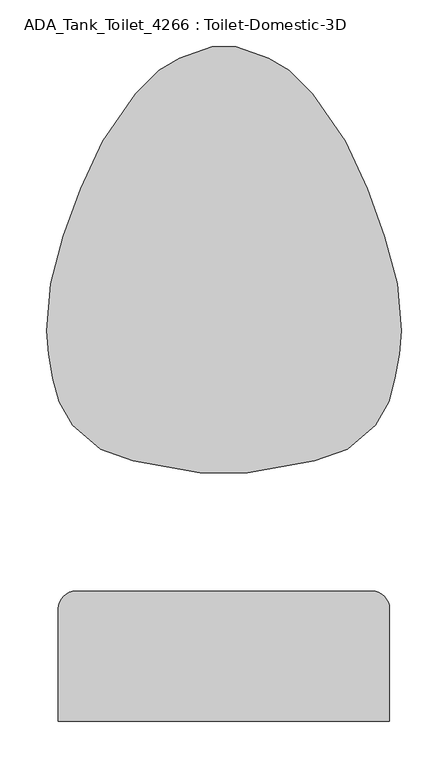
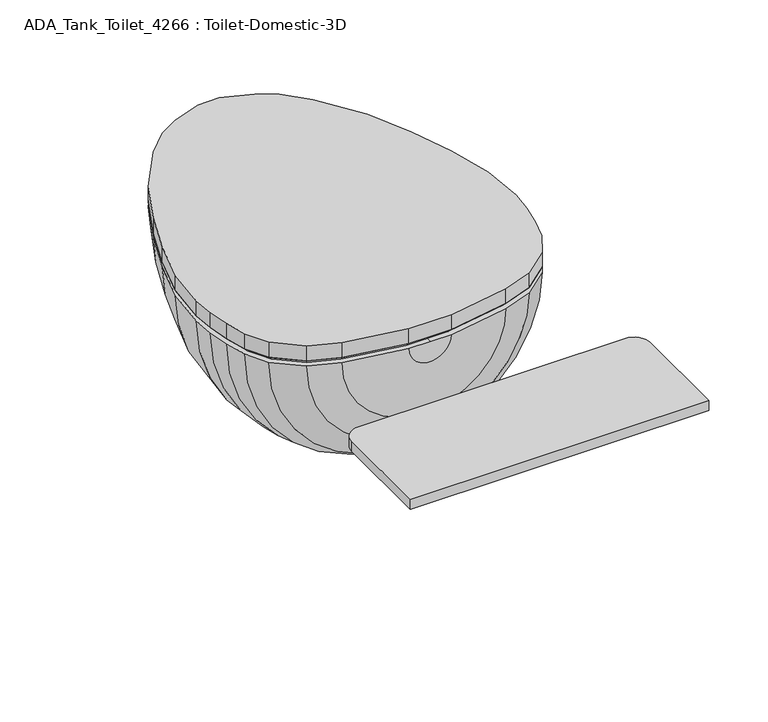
"""IFC4 building model written with IfcOpenShell, lengths in millimetres: flow terminal geometry, ADA_Tank_Toilet_4266 : Toilet-Domestic-3D."""

import ifcopenshell
import ifcopenshell.guid

model = None  # the IFC model being written
_history = None  # IfcOwnerHistory: only IFC2X3 demands one
_inside = {}  # id of a spatial element -> (the spatial element, [elements in it])
_under = {}  # id of a project, library or spatial element -> (it, [spatial elements below it])
_declared = {}  # id of a project -> (the project, [libraries it declares])
_typed = {}  # id of a type object -> (the type object, [elements of that type])
_made_of = {}  # id of a material, layer set ... -> (it, [elements and type objects made of it])


def new_model(schema):
    """Start an empty IFC model of exactly this schema.

    Asked for "IFC4X3", IfcOpenShell would pick the latest addendum, in which some entities
    have other attributes; the version numbers below select the first issue.
    IFC2X3 requires an IfcOwnerHistory on every rooted entity: one is made here for all.
    """
    global model, _history
    if schema == "IFC4X3":
        model = ifcopenshell.file(schema_version=(4, 3, 0, 0))
    else:
        model = ifcopenshell.file(schema=schema)
    _inside.clear()
    _under.clear()
    _declared.clear()
    _typed.clear()
    _made_of.clear()
    _history = None
    if model.schema == "IFC2X3":
        org = make("IfcOrganization", Name="unknown")
        user = make(
            "IfcPersonAndOrganization",
            ThePerson=make("IfcPerson", FamilyName="unknown"),
            TheOrganization=org,
        )
        app = make(
            "IfcApplication",
            ApplicationDeveloper=org,
            Version="unknown",
            ApplicationFullName="unknown",
            ApplicationIdentifier="unknown",
        )
        _history = make(
            "IfcOwnerHistory",
            OwningUser=user,
            OwningApplication=app,
            ChangeAction="ADDED",
            CreationDate=0,
        )
    return model


def make(cls, **values):
    """One entity of the class cls with the attributes given. An attribute that is None is left unset."""
    return model.create_entity(
        cls, **{name: value for name, value in values.items() if value is not None}
    )


def rooted(cls, **values):
    """An entity with a GlobalId (a new one), such as an element, a storey or a relation."""
    return make(cls, GlobalId=ifcopenshell.guid.new(), OwnerHistory=_history, **values)


def si_unit(unit_type, name, prefix=None):
    """IfcSIUnit, for example si_unit("LENGTHUNIT", "METRE", prefix="MILLI")."""
    return make("IfcSIUnit", UnitType=unit_type, Prefix=prefix, Name=name)


def assignment(units):
    """IfcUnitAssignment: the units of a project."""
    return None if units is None else make("IfcUnitAssignment", Units=units)


def point(xyz):
    """IfcCartesianPoint."""
    return None if xyz is None else make("IfcCartesianPoint", Coordinates=xyz)


def direction(xyz):
    """IfcDirection."""
    return None if xyz is None else make("IfcDirection", DirectionRatios=xyz)


def frame(location, z_axis=None, x_axis=None):
    """IfcAxis2Placement3D, a coordinate frame: its origin and axes. An axis left out is left unset."""
    return make(
        "IfcAxis2Placement3D",
        Location=point(location),
        Axis=direction(z_axis),
        RefDirection=direction(x_axis),
    )


def frame_2d(location, x_axis=None):
    """IfcAxis2Placement2D, a coordinate frame in the plane: its origin and x axis."""
    return make(
        "IfcAxis2Placement2D", Location=point(location), RefDirection=direction(x_axis)
    )


def origin():
    """The frame at (0, 0, 0) with its axes left unset."""
    return frame((0.0, 0.0, 0.0))


def place(relative_to, where):
    """IfcLocalPlacement: puts the frame where relative to a parent placement (None: the world)."""
    return make(
        "IfcLocalPlacement", PlacementRelTo=relative_to, RelativePlacement=where
    )


def context(
    kind, dimensions, precision=None, world=None, true_north=None, identifier=None
):
    """IfcGeometricRepresentationContext, for example the 3D "Model" context."""
    return make(
        "IfcGeometricRepresentationContext",
        ContextIdentifier=identifier,
        ContextType=kind,
        CoordinateSpaceDimension=dimensions,
        Precision=precision,
        WorldCoordinateSystem=world,
        TrueNorth=true_north,
    )


def project(units=None, contexts=None):
    """IfcProject with its units and contexts."""
    return rooted(
        "IfcProject",
        Name="project",
        RepresentationContexts=contexts,
        UnitsInContext=assignment(units),
    )


def spatial(cls, under=None, at=None, **own):
    """A site, building, storey or space (cls), placed at a placement, below another one or the project."""
    s = rooted(cls, ObjectPlacement=at, **own)
    if under is not None:
        _under.setdefault(under.id(), (under, []))[1].append(s)
    return s


def polyline(points):
    """IfcPolyline through the points."""
    return make("IfcPolyline", Points=[point(p) for p in points])


def circle_curve(where, radius):
    """IfcCircle in the frame where."""
    return make("IfcCircle", Position=where, Radius=radius)


def trimmed(basis, trim1, trim2, sense, master):
    """IfcTrimmedCurve: the piece of a basis curve between two trims."""
    return make(
        "IfcTrimmedCurve",
        BasisCurve=basis,
        Trim1=trim1,
        Trim2=trim2,
        SenseAgreement=sense,
        MasterRepresentation=master,
    )


def segment(curve, same_sense, transition):
    """IfcCompositeCurveSegment."""
    return make(
        "IfcCompositeCurveSegment",
        Transition=transition,
        SameSense=same_sense,
        ParentCurve=curve,
    )


def composite_curve(segments, self_intersect=None):
    """IfcCompositeCurve: segments joined end to end."""
    return make("IfcCompositeCurve", Segments=segments, SelfIntersect=self_intersect)


def outline(outer, holes=None, kind="AREA"):
    """IfcArbitraryClosedProfileDef: a profile drawn as a closed curve; with holes, ...WithVoids."""
    if holes is None:
        return make("IfcArbitraryClosedProfileDef", ProfileType=kind, OuterCurve=outer)
    return make(
        "IfcArbitraryProfileDefWithVoids",
        ProfileType=kind,
        OuterCurve=outer,
        InnerCurves=holes,
    )


def extrude(swept, where, along, depth):
    """IfcExtrudedAreaSolid: the profile swept, set in the frame where, extruded along a direction by depth."""
    return make(
        "IfcExtrudedAreaSolid",
        SweptArea=swept,
        Position=where,
        ExtrudedDirection=direction(along),
        Depth=depth,
    )


def faces_of(points, faces, orient=None, outer=None):
    """IfcFace entities. A face is a list of loops; a loop is a list of indices into points, from 0.

    orient and outer hold one flag for each loop. By default every Orientation is true, the
    first loop of a face is its IfcFaceOuterBound and the others are IfcFaceBound.
    """
    made = []
    for i, loops in enumerate(faces):
        bounds = []
        for j, loop in enumerate(loops):
            is_outer = j == 0 if outer is None else outer[i][j]
            bounds.append(
                make(
                    "IfcFaceOuterBound" if is_outer else "IfcFaceBound",
                    Bound=make("IfcPolyLoop", Polygon=[points[k] for k in loop]),
                    Orientation=True if orient is None else orient[i][j],
                )
            )
        made.append(make("IfcFace", Bounds=bounds))
    return made


def faceted_brep(points, faces, orient=None, outer=None, voids=None):
    """IfcFacetedBrep: a solid bounded by flat faces; with voids (closed shells), ...WithVoids."""
    shared = [point(p) for p in points]
    hull = make("IfcClosedShell", CfsFaces=faces_of(shared, faces, orient, outer))
    if voids is None:
        return make("IfcFacetedBrep", Outer=hull)
    return make(
        "IfcFacetedBrepWithVoids",
        Outer=hull,
        Voids=[
            make(cls, CfsFaces=faces_of(shared, fs, o, b)) for cls, fs, o, b in voids
        ],
    )


def shape(context_of_items, identifier, shape_type, items):
    """IfcShapeRepresentation: the items that make up one representation, for example the "Body"."""
    return make(
        "IfcShapeRepresentation",
        ContextOfItems=context_of_items,
        RepresentationIdentifier=identifier,
        RepresentationType=shape_type,
        Items=items,
    )


def source(mapping_origin, context_of_items, identifier, shape_type, items):
    """IfcRepresentationMap: a shape defined once, which mapped items show again and again."""
    return make(
        "IfcRepresentationMap",
        MappingOrigin=mapping_origin,
        MappedRepresentation=shape(context_of_items, identifier, shape_type, items),
    )


def transform(
    local_origin,
    x_axis=None,
    y_axis=None,
    z_axis=None,
    scale=None,
    scale2=None,
    scale3=None,
    uniform=True,
):
    """IfcCartesianTransformationOperator3D, or its non-uniform kind. x_axis, y_axis, z_axis: its Axis1, 2, 3."""
    if uniform:
        return make(
            "IfcCartesianTransformationOperator3D",
            Axis1=direction(x_axis),
            Axis2=direction(y_axis),
            LocalOrigin=point(local_origin),
            Scale=scale,
            Axis3=direction(z_axis),
        )
    return make(
        "IfcCartesianTransformationOperator3DnonUniform",
        Axis1=direction(x_axis),
        Axis2=direction(y_axis),
        LocalOrigin=point(local_origin),
        Scale=scale,
        Axis3=direction(z_axis),
        Scale2=scale2,
        Scale3=scale3,
    )


def mapped(mapping_source, mapping_target):
    """IfcMappedItem: shows the shape of a source again, moved by a transform."""
    return make(
        "IfcMappedItem", MappingSource=mapping_source, MappingTarget=mapping_target
    )


def made_of(thing, what):
    """Note that an element or type object is made of a material, layer set ...; save() writes the relation."""
    if what is not None:
        _made_of.setdefault(what.id(), (what, []))[1].append(thing)
    return thing


def element(
    cls,
    number,
    at=None,
    inside=None,
    cuts=None,
    type_object=None,
    material=None,
    context=None,
    identifier="Body",
    shape_type=None,
    held_by="IfcProductDefinitionShape",
    body=None,
    shapes=None,
    **own,
):
    """One element of the class cls, such as IfcWall. Its Tag is "e" and its number.

    at: its placement. inside: the storey or other place that contains it. cuts: it is an
    opening in that element (IfcRelVoidsElement). A single representation is given by context,
    identifier, shape_type and body (its items); several are given by shapes. held_by: the class
    of the entity that holds the representations. save() writes the other relations.
    """
    e = rooted(cls, Tag="e%d" % number, ObjectPlacement=at, **own)
    if body is not None:
        shapes = [shape(context, identifier, shape_type, body)]
    if shapes is not None:
        e.Representation = make(held_by, Representations=shapes)
    if inside is not None:
        _inside.setdefault(inside.id(), (inside, []))[1].append(e)
    if cuts is not None:
        rooted(
            "IfcRelVoidsElement", RelatingBuildingElement=cuts, RelatedOpeningElement=e
        )
    if type_object is not None:
        _typed.setdefault(type_object.id(), (type_object, []))[1].append(e)
    return made_of(e, material)


def aggregate(whole, parts):
    """IfcRelAggregates: a whole, such as a stair, and the parts it consists of."""
    return rooted("IfcRelAggregates", RelatingObject=whole, RelatedObjects=parts)


def save(model, path):
    """Write the relations noted so far, then the file.

    IfcRelAggregates (storeys below a building ...), IfcRelContainedInSpatialStructure (elements
    in a storey), IfcRelDefinesByType, IfcRelAssociatesMaterial and IfcRelDeclares: one each for
    every whole, place, type object, material and project.
    """
    for whole, parts in _under.values():
        aggregate(whole, parts)
    for where, things in _inside.values():
        rooted(
            "IfcRelContainedInSpatialStructure",
            RelatedElements=things,
            RelatingStructure=where,
        )
    for kind, things in _typed.values():
        rooted("IfcRelDefinesByType", RelatedObjects=things, RelatingType=kind)
    for what, things in _made_of.values():
        rooted("IfcRelAssociatesMaterial", RelatedObjects=things, RelatingMaterial=what)
    for by, libraries in _declared.values():
        rooted("IfcRelDeclares", RelatingContext=by, RelatedDefinitions=libraries)
    model.write(path)


def plane_surface(at):
    """IfcPlane: the flat surface through the origin of the frame at, square to its z axis."""
    return make("IfcPlane", Position=at)


def revolved_surface(curve, axis_point, axis_direction):
    """IfcSurfaceOfRevolution: the curve turned about the line through axis_point along axis_direction."""
    return make(
        "IfcSurfaceOfRevolution",
        SweptCurve=make("IfcArbitraryOpenProfileDef", ProfileType="CURVE", Curve=curve),
        AxisPosition=make("IfcAxis1Placement", Location=point(axis_point), Axis=direction(axis_direction)),
    )


def advanced_brep(points, edges, surfaces, faces):
    """IfcAdvancedBrep: a solid bounded by faces that lie on surfaces and meet in shared edges.

    An edge is (start, end): straight between two places in points (the first is 0);
    or (start, end, curve); or (start, end, curve, False) where it runs against its curve.
    A face is (place in surfaces, loops), or (place, loops, False) where it looks against
    its surface's normal. A loop lists edges by number (the first is 1), with a minus sign
    where the edge is run from its end to its start. The first loop is the outer one.
    """
    corners = [point(p) for p in points]
    vertices = [make("IfcVertexPoint", VertexGeometry=c) for c in corners]
    made = []
    for start, end, *more in edges:
        made.append(
            make(
                "IfcEdgeCurve",
                EdgeStart=vertices[start],
                EdgeEnd=vertices[end],
                EdgeGeometry=more[0] if more else make("IfcPolyline", Points=[corners[start], corners[end]]),
                SameSense=more[1] if len(more) > 1 else True,
            )
        )
    hull = []
    for where, loops, *sense in faces:
        bounds = []
        for j, loop in enumerate(loops):
            ring = [make("IfcOrientedEdge", EdgeElement=made[abs(k) - 1], Orientation=k > 0) for k in loop]
            bounds.append(
                make(
                    "IfcFaceOuterBound" if j == 0 else "IfcFaceBound",
                    Bound=make("IfcEdgeLoop", EdgeList=ring),
                    Orientation=True,
                )
            )
        hull.append(make("IfcAdvancedFace", Bounds=bounds, FaceSurface=surfaces[where], SameSense=sense[0] if sense else True))
    return make("IfcAdvancedBrep", Outer=make("IfcClosedShell", CfsFaces=hull))


def ada_tank_toilet_4266_toilet_domestic_3d_4660e8f3(model_context):
    return source(origin(), model_context, "Body", "SolidModel", [
        advanced_brep(
        [(-25.4, -152.4, 444.5), (0.0, -152.4, 444.5), (0.0, -133.6394123, 444.5), (-22.0920022, -133.6394123, 444.5), (-94.1172813, -120.9394123, 444.5), (-121.9980886, -110.7916284, 444.5), (-146.1085923, -90.5605136, 444.5), (-159.5484355, -68.2281551, 444.5), (-165.101298, -47.5045901, 444.5), (-169.3087351, -23.6430284, 444.5), (-171.5645445, 2.1409906, 444.5), (-167.7238545, 46.0402777, 444.5), (-154.575847, 95.1093097, 444.5), (-136.654021, 144.3491221, 444.5), (-114.0255101, 192.8761202, 444.5), (-79.2146703, 243.0564036, 444.5), (-58.4178985, 263.8531754, 444.5), (-39.5113323, 274.7688865, 444.5), (-12.5224565, 284.592034, 444.5), (0.0, 284.592034, 444.5), (0.0, 304.8, 444.5), (-12.7, 304.8, 444.5), (-47.5929632, 292.1, 444.5), (-69.5900085, 279.4, 444.5), (-94.9900085, 254.0, 444.5), (-130.2307553, 203.2, 444.5), (-153.9191843, 152.4, 444.5), (-172.4088722, 101.6, 444.5), (-186.0724883, 50.6066907, 444.5), (-190.5, 0.0, 444.5), (-188.2862441, -25.3033453, 444.5), (-183.790496, -50.8, 444.5), (-176.9845865, -76.2, 444.5), (-162.5887836, -101.6, 444.5), (-132.3182423, -127.0, 444.5), (-97.4252791, -139.7, 444.5), (25.4, -152.4, 444.5), (97.4252791, -139.7, 444.5), (132.3182423, -127.0, 444.5), (162.5887836, -101.6, 444.5), (176.9845865, -76.2, 444.5), (183.790496, -50.8, 444.5), (188.2862441, -25.3033453, 444.5), (190.5, 0.0, 444.5), (186.0724883, 50.6066907, 444.5), (172.4088722, 101.6, 444.5), (153.9191843, 152.4, 444.5), (130.2307553, 203.2, 444.5), (94.9900085, 254.0, 444.5), (69.5900085, 279.4, 444.5), (47.5929632, 292.1, 444.5), (12.7, 304.8, 444.5), (12.5224565, 284.592034, 444.5), (39.5113323, 274.7688865, 444.5), (58.4178985, 263.8531754, 444.5), (79.2146703, 243.0564036, 444.5), (114.0255101, 192.8761202, 444.5), (136.654021, 144.3491221, 444.5), (154.575847, 95.1093097, 444.5), (167.7238545, 46.0402777, 444.5), (171.5645445, 2.1409906, 444.5), (169.3087351, -23.6430284, 444.5), (165.101298, -47.5045901, 444.5), (159.5484355, -68.2281551, 444.5), (146.1085923, -90.5605136, 444.5), (121.9980886, -110.7916284, 444.5), (94.1172813, -120.9394123, 444.5), (22.0920022, -133.6394123, 444.5)],
        [
            (0, 1),
            (1, 2),
            (2, 3),
            (3, 4),
            (4, 5),
            (5, 6),
            (6, 7),
            (7, 8),
            (8, 9),
            (9, 10),
            (10, 11),
            (11, 12),
            (12, 13),
            (13, 14),
            (14, 15),
            (15, 16),
            (16, 17),
            (17, 18),
            (18, 19),
            (19, 20),
            (20, 21),
            (21, 22),
            (22, 23),
            (23, 24),
            (24, 25),
            (25, 26),
            (26, 27),
            (27, 28),
            (28, 29),
            (29, 30),
            (30, 31),
            (31, 32),
            (32, 33),
            (33, 34),
            (34, 35),
            (35, 0),
            (36, 37),
            (37, 38),
            (38, 39),
            (39, 40),
            (40, 41),
            (41, 42),
            (42, 43),
            (43, 44),
            (44, 45),
            (45, 46),
            (46, 47),
            (47, 48),
            (48, 49),
            (49, 50),
            (50, 51),
            (51, 20),
            (19, 52),
            (52, 53),
            (53, 54),
            (54, 55),
            (55, 56),
            (56, 57),
            (57, 58),
            (58, 59),
            (59, 60),
            (60, 61),
            (61, 62),
            (62, 63),
            (63, 64),
            (64, 65),
            (65, 66),
            (66, 67),
            (67, 2),
            (1, 36),
            (36, 0, circle_curve(frame((0.0, -152.4, 444.5), z_axis=(0.0, 1.0, 0.0), x_axis=(-1.0, 0.0, 0.0)), 25.4)),
            (35, 37, circle_curve(frame((0.0, -139.7, 444.5), z_axis=(0.0, -1.0, 0.0), x_axis=(-1.0, 0.0, 0.0)), 97.4252791)),
            (34, 38, circle_curve(frame((0.0, -127.0, 444.5), z_axis=(0.0, -1.0, 0.0), x_axis=(-1.0, 0.0, 0.0)), 132.3182423)),
            (33, 39, circle_curve(frame((0.0, -101.6, 444.5), z_axis=(0.0, -1.0, 0.0), x_axis=(-1.0, 0.0, 0.0)), 162.5887836)),
            (32, 40, circle_curve(frame((0.0, -76.2, 444.5), z_axis=(0.0, -1.0, 0.0), x_axis=(-1.0, 0.0, 0.0)), 176.9845865)),
            (31, 41, circle_curve(frame((0.0, -50.8, 444.5), z_axis=(0.0, -1.0, 0.0), x_axis=(-1.0, 0.0, 0.0)), 183.790496)),
            (30, 42, circle_curve(frame((0.0, -25.3033453, 444.5), z_axis=(0.0, -1.0, 0.0), x_axis=(-1.0, 0.0, 0.0)), 188.2862441)),
            (29, 43, circle_curve(frame((0.0, 0.0, 444.5), z_axis=(0.0, -1.0, 0.0), x_axis=(-1.0, 0.0, 0.0)), 190.5)),
            (28, 44, circle_curve(frame((0.0, 50.6066907, 444.5), z_axis=(0.0, -1.0, 0.0), x_axis=(-1.0, 0.0, 0.0)), 186.0724883)),
            (27, 45, circle_curve(frame((0.0, 101.6, 444.5), z_axis=(0.0, -1.0, 0.0), x_axis=(-1.0, 0.0, 0.0)), 172.4088722)),
            (26, 46, circle_curve(frame((0.0, 152.4, 444.5), z_axis=(0.0, -1.0, 0.0), x_axis=(-1.0, 0.0, 0.0)), 153.9191843)),
            (25, 47, circle_curve(frame((0.0, 203.2, 444.5), z_axis=(0.0, -1.0, 0.0), x_axis=(-1.0, 0.0, 0.0)), 130.2307553)),
            (24, 48, circle_curve(frame((0.0, 254.0, 444.5), z_axis=(0.0, -1.0, 0.0), x_axis=(-1.0, 0.0, 0.0)), 94.9900085)),
            (23, 49, circle_curve(frame((0.0, 279.4, 444.5), z_axis=(0.0, -1.0, 0.0), x_axis=(-1.0, 0.0, 0.0)), 69.5900085)),
            (22, 50, circle_curve(frame((0.0, 292.1, 444.5), z_axis=(0.0, -1.0, 0.0), x_axis=(-1.0, 0.0, 0.0)), 47.5929632)),
            (21, 51, circle_curve(frame((0.0, 304.8, 444.5), z_axis=(0.0, -1.0, 0.0), x_axis=(-1.0, 0.0, 0.0)), 12.7)),
            (18, 52, circle_curve(frame((0.0, 284.592034, 444.5), z_axis=(0.0, -1.0, 0.0), x_axis=(-1.0, 0.0, 0.0)), 12.5224565)),
            (17, 53, circle_curve(frame((0.0, 274.7688865, 444.5), z_axis=(0.0, -1.0, 0.0), x_axis=(-1.0, 0.0, 0.0)), 39.5113323)),
            (16, 54, circle_curve(frame((0.0, 263.8531754, 444.5), z_axis=(0.0, -1.0, 0.0), x_axis=(-1.0, 0.0, 0.0)), 58.4178985)),
            (15, 55, circle_curve(frame((0.0, 243.0564036, 444.5), z_axis=(0.0, -1.0, 0.0), x_axis=(-1.0, 0.0, 0.0)), 79.2146703)),
            (14, 56, circle_curve(frame((0.0, 192.8761202, 444.5), z_axis=(0.0, -1.0, 0.0), x_axis=(-1.0, 0.0, 0.0)), 114.0255101)),
            (13, 57, circle_curve(frame((0.0, 144.3491221, 444.5), z_axis=(0.0, -1.0, 0.0), x_axis=(-1.0, 0.0, 0.0)), 136.654021)),
            (12, 58, circle_curve(frame((0.0, 95.1093097, 444.5), z_axis=(0.0, -1.0, 0.0), x_axis=(-1.0, 0.0, 0.0)), 154.575847)),
            (11, 59, circle_curve(frame((0.0, 46.0402777, 444.5), z_axis=(0.0, -1.0, 0.0), x_axis=(-1.0, 0.0, 0.0)), 167.7238545)),
            (10, 60, circle_curve(frame((0.0, 2.1409906, 444.5), z_axis=(0.0, -1.0, 0.0), x_axis=(-1.0, 0.0, 0.0)), 171.5645445)),
            (9, 61, circle_curve(frame((0.0, -23.6430284, 444.5), z_axis=(0.0, -1.0, 0.0), x_axis=(-1.0, 0.0, 0.0)), 169.3087351)),
            (8, 62, circle_curve(frame((0.0, -47.5045901, 444.5), z_axis=(0.0, -1.0, 0.0), x_axis=(-1.0, 0.0, 0.0)), 165.101298)),
            (7, 63, circle_curve(frame((0.0, -68.2281551, 444.5), z_axis=(0.0, -1.0, 0.0), x_axis=(-1.0, 0.0, 0.0)), 159.5484355)),
            (6, 64, circle_curve(frame((0.0, -90.5605136, 444.5), z_axis=(0.0, -1.0, 0.0), x_axis=(-1.0, 0.0, 0.0)), 146.1085923)),
            (5, 65, circle_curve(frame((0.0, -110.7916284, 444.5), z_axis=(0.0, -1.0, 0.0), x_axis=(-1.0, 0.0, 0.0)), 121.9980886)),
            (4, 66, circle_curve(frame((0.0, -120.9394123, 444.5), z_axis=(0.0, -1.0, 0.0), x_axis=(-1.0, 0.0, 0.0)), 94.1172813)),
            (3, 67, circle_curve(frame((0.0, -133.6394123, 444.5), z_axis=(0.0, -1.0, 0.0), x_axis=(-1.0, 0.0, 0.0)), 22.0920022)),
        ],
        [
            plane_surface(frame((0.0, -175.1599017, 444.5), z_axis=(0.0, 0.0, 1.0), x_axis=(-1.0, 0.0, 0.0))),
            plane_surface(frame((0.0, -175.1599017, 444.5), z_axis=(0.0, 0.0, 1.0), x_axis=(1.0, 0.0, 0.0))),
            revolved_surface(polyline([(-25.4, -152.4, 444.5), (-97.4252791, -139.7, 444.5)]), (0.0, -175.1599017, 444.5), (0.0, 1.0, 0.0)),
            revolved_surface(polyline([(-97.4252791, -139.7, 444.5), (-132.3182423, -127.0, 444.5)]), (0.0, -175.1599017, 444.5), (0.0, 1.0, 0.0)),
            revolved_surface(polyline([(-132.3182423, -127.0, 444.5), (-162.5887836, -101.6, 444.5)]), (0.0, -175.1599017, 444.5), (0.0, 1.0, 0.0)),
            revolved_surface(polyline([(-162.5887836, -101.6, 444.5), (-176.9845865, -76.2, 444.5)]), (0.0, -175.1599017, 444.5), (0.0, 1.0, 0.0)),
            revolved_surface(polyline([(-176.9845865, -76.2, 444.5), (-183.790496, -50.8, 444.5)]), (0.0, -175.1599017, 444.5), (0.0, 1.0, 0.0)),
            revolved_surface(polyline([(-183.790496, -50.8, 444.5), (-188.2862441, -25.3033453, 444.5)]), (0.0, -175.1599017, 444.5), (0.0, 1.0, 0.0)),
            revolved_surface(polyline([(-188.2862441, -25.3033453, 444.5), (-190.5, 0.0, 444.5)]), (0.0, -175.1599017, 444.5), (0.0, 1.0, 0.0)),
            revolved_surface(polyline([(-190.5, 0.0, 444.5), (-186.0724883, 50.6066907, 444.5)]), (0.0, -175.1599017, 444.5), (0.0, 1.0, 0.0)),
            revolved_surface(polyline([(-186.0724883, 50.6066907, 444.5), (-172.4088722, 101.6, 444.5)]), (0.0, -175.1599017, 444.5), (0.0, 1.0, 0.0)),
            revolved_surface(polyline([(-172.4088722, 101.6, 444.5), (-153.9191843, 152.4, 444.5)]), (0.0, -175.1599017, 444.5), (0.0, 1.0, 0.0)),
            revolved_surface(polyline([(-153.9191843, 152.4, 444.5), (-130.2307553, 203.2, 444.5)]), (0.0, -175.1599017, 444.5), (0.0, 1.0, 0.0)),
            revolved_surface(polyline([(-130.2307553, 203.2, 444.5), (-94.9900085, 254.0, 444.5)]), (0.0, -175.1599017, 444.5), (0.0, 1.0, 0.0)),
            revolved_surface(polyline([(-94.9900085, 254.0, 444.5), (-69.5900085, 279.4, 444.5)]), (0.0, -175.1599017, 444.5), (0.0, 1.0, 0.0)),
            revolved_surface(polyline([(-69.5900085, 279.4, 444.5), (-47.5929632, 292.1, 444.5)]), (0.0, -175.1599017, 444.5), (0.0, 1.0, 0.0)),
            revolved_surface(polyline([(-47.5929632, 292.1, 444.5), (-12.7, 304.8, 444.5)]), (0.0, -175.1599017, 444.5), (0.0, 1.0, 0.0)),
            plane_surface(frame((0.0, 304.8, 444.5), z_axis=(0.0, 1.0, 0.0), x_axis=(-1.0, 0.0, 0.0))),
            plane_surface(frame((0.0, 284.592034, 444.5), z_axis=(0.0, -1.0, 0.0), x_axis=(-1.0, 0.0, 0.0))),
            revolved_surface(polyline([(-12.5224565, 284.592034, 444.5), (-39.5113323, 274.7688865, 444.5)]), (0.0, -175.1599017, 444.5), (0.0, 1.0, 0.0)),
            revolved_surface(polyline([(-39.5113323, 274.7688865, 444.5), (-58.4178985, 263.8531754, 444.5)]), (0.0, -175.1599017, 444.5), (0.0, 1.0, 0.0)),
            revolved_surface(polyline([(-58.4178985, 263.8531754, 444.5), (-79.2146703, 243.0564036, 444.5)]), (0.0, -175.1599017, 444.5), (0.0, 1.0, 0.0)),
            revolved_surface(polyline([(-79.2146703, 243.0564036, 444.5), (-114.0255101, 192.8761202, 444.5)]), (0.0, -175.1599017, 444.5), (0.0, 1.0, 0.0)),
            revolved_surface(polyline([(-114.0255101, 192.8761202, 444.5), (-136.654021, 144.3491221, 444.5)]), (0.0, -175.1599017, 444.5), (0.0, 1.0, 0.0)),
            revolved_surface(polyline([(-136.654021, 144.3491221, 444.5), (-154.575847, 95.1093097, 444.5)]), (0.0, -175.1599017, 444.5), (0.0, 1.0, 0.0)),
            revolved_surface(polyline([(-154.575847, 95.1093097, 444.5), (-167.7238545, 46.0402777, 444.5)]), (0.0, -175.1599017, 444.5), (0.0, 1.0, 0.0)),
            revolved_surface(polyline([(-167.7238545, 46.0402777, 444.5), (-171.5645445, 2.1409906, 444.5)]), (0.0, -175.1599017, 444.5), (0.0, 1.0, 0.0)),
            revolved_surface(polyline([(-171.5645445, 2.1409906, 444.5), (-169.3087351, -23.6430284, 444.5)]), (0.0, -175.1599017, 444.5), (0.0, 1.0, 0.0)),
            revolved_surface(polyline([(-169.3087351, -23.6430284, 444.5), (-165.101298, -47.5045901, 444.5)]), (0.0, -175.1599017, 444.5), (0.0, 1.0, 0.0)),
            revolved_surface(polyline([(-165.101298, -47.5045901, 444.5), (-159.5484355, -68.2281551, 444.5)]), (0.0, -175.1599017, 444.5), (0.0, 1.0, 0.0)),
            revolved_surface(polyline([(-159.5484355, -68.2281551, 444.5), (-146.1085923, -90.5605136, 444.5)]), (0.0, -175.1599017, 444.5), (0.0, 1.0, 0.0)),
            revolved_surface(polyline([(-146.1085923, -90.5605136, 444.5), (-121.9980886, -110.7916284, 444.5)]), (0.0, -175.1599017, 444.5), (0.0, 1.0, 0.0)),
            revolved_surface(polyline([(-121.9980886, -110.7916284, 444.5), (-94.1172813, -120.9394123, 444.5)]), (0.0, -175.1599017, 444.5), (0.0, 1.0, 0.0)),
            revolved_surface(polyline([(-94.1172813, -120.9394123, 444.5), (-22.0920022, -133.6394123, 444.5)]), (0.0, -175.1599017, 444.5), (0.0, 1.0, 0.0)),
            plane_surface(frame((0.0, -133.6394123, 444.5), z_axis=(0.0, 1.0, 0.0), x_axis=(-1.0, 0.0, 0.0))),
            plane_surface(frame((0.0, -152.4, 444.5), z_axis=(0.0, -1.0, 0.0), x_axis=(-1.0, 0.0, 0.0))),
        ],
        [
            (0, [[1, 2, 3, 4, 5, 6, 7, 8, 9, 10, 11, 12, 13, 14, 15, 16, 17, 18, 19, 20, 21, 22, 23, 24, 25, 26, 27, 28, 29, 30, 31, 32, 33, 34, 35, 36]]),
            (1, [[37, 38, 39, 40, 41, 42, 43, 44, 45, 46, 47, 48, 49, 50, 51, 52, -20, 53, 54, 55, 56, 57, 58, 59, 60, 61, 62, 63, 64, 65, 66, 67, 68, 69, -2, 70]]),
            (2, [[-37, 71, -36, 72]]),
            (3, [[-38, -72, -35, 73]]),
            (4, [[-39, -73, -34, 74]]),
            (5, [[-40, -74, -33, 75]]),
            (6, [[-41, -75, -32, 76]]),
            (7, [[-42, -76, -31, 77]]),
            (8, [[-43, -77, -30, 78]]),
            (9, [[-44, -78, -29, 79]]),
            (10, [[-45, -79, -28, 80]]),
            (11, [[-46, -80, -27, 81]]),
            (12, [[-47, -81, -26, 82]]),
            (13, [[-48, -82, -25, 83]]),
            (14, [[-49, -83, -24, 84]]),
            (15, [[-50, -84, -23, 85]]),
            (16, [[-51, -85, -22, 86]]),
            (17, [[-52, -86, -21]]),
            (18, [[-53, -19, 87]]),
            (19, [[-54, -87, -18, 88]]),
            (20, [[-55, -88, -17, 89]]),
            (21, [[-56, -89, -16, 90]]),
            (22, [[-57, -90, -15, 91]]),
            (23, [[-58, -91, -14, 92]]),
            (24, [[-59, -92, -13, 93]]),
            (25, [[-60, -93, -12, 94]]),
            (26, [[-61, -94, -11, 95]]),
            (27, [[-62, -95, -10, 96]]),
            (28, [[-63, -96, -9, 97]]),
            (29, [[-64, -97, -8, 98]]),
            (30, [[-65, -98, -7, 99]]),
            (31, [[-66, -99, -6, 100]]),
            (32, [[-67, -100, -5, 101]]),
            (33, [[-68, -101, -4, 102]]),
            (34, [[-69, -102, -3]]),
            (35, [[-70, -1, -71]]),
        ],
    ),
        faceted_brep([(-97.4252791, -139.7, 450.85), (-25.4, -152.4, 450.85), (25.4, -152.4, 450.85), (97.4252791, -139.7, 450.85), (132.3182423, -127.0, 450.85), (162.5887836, -101.6, 450.85), (176.9845865, -76.2, 450.85), (183.790496, -50.8, 450.85), (188.2862441, -25.3033453, 450.85), (190.5, 0.0, 450.85), (186.0724883, 50.6066907, 450.85), (172.4088722, 101.6, 450.85), (153.9191843, 152.4, 450.85), (130.2307553, 203.2, 450.85), (94.9900085, 254.0, 450.85), (69.5900085, 279.4, 450.85), (47.5929632, 292.1, 450.85), (12.7, 304.8, 450.85), (-12.7, 304.8, 450.85), (-47.5929632, 292.1, 450.85), (-69.5900085, 279.4, 450.85), (-94.9900085, 254.0, 450.85), (-130.2307553, 203.2, 450.85), (-153.9191843, 152.4, 450.85), (-172.4088722, 101.6, 450.85), (-186.0724883, 50.6066907, 450.85), (-190.5, 0.0, 450.85), (-188.2862441, -25.3033453, 450.85), (-183.790496, -50.8, 450.85), (-176.9845865, -76.2, 450.85), (-162.5887836, -101.6, 450.85), (-132.3182423, -127.0, 450.85), (-95.7755003, -133.5429415, 444.5), (-129.0942628, -121.4159037, 444.5), (-157.6293435, -97.472128, 444.5), (-171.060664, -73.773864, 444.5), (-177.5851102, -49.4242991, 444.5), (-181.9845715, -24.4737144, 444.5), (-184.125744, 0.0, 444.5), (-179.7950716, 49.4998127, 444.5), (-166.347, 99.688699, 444.5), (-148.0469602, 149.9676451, 444.5), (-124.7045808, 200.0255393, 444.5), (-90.0971582, 249.9125941, 444.5), (-65.691017, 274.3187354, 444.5), (-44.8990862, 286.3229622, 444.5), (-11.5803237, 298.45, 444.5), (11.5803237, 298.45, 444.5), (44.8990862, 286.3229622, 444.5), (65.691017, 274.3187354, 444.5), (90.0971582, 249.9125941, 444.5), (124.7045808, 200.0255393, 444.5), (148.0469602, 149.9676451, 444.5), (166.347, 99.688699, 444.5), (179.7950716, 49.4998127, 444.5), (184.125744, 0.0, 444.5), (181.9845715, -24.4737144, 444.5), (177.5851102, -49.4242991, 444.5), (171.060664, -73.773864, 444.5), (157.6293435, -97.472128, 444.5), (129.0942628, -121.4159037, 444.5), (95.7755003, -133.5429415, 444.5), (24.844447, -146.05, 444.5), (-24.844447, -146.05, 444.5)], [[[0, 1, 2, 3, 4, 5, 6, 7, 8, 9, 10, 11, 12, 13, 14, 15, 16, 17, 18, 19, 20, 21, 22, 23, 24, 25, 26, 27, 28, 29, 30, 31]], [[32, 33, 34, 35, 36, 37, 38, 39, 40, 41, 42, 43, 44, 45, 46, 47, 48, 49, 50, 51, 52, 53, 54, 55, 56, 57, 58, 59, 60, 61, 62, 63]], [[32, 0, 31, 33]], [[33, 31, 30, 34]], [[34, 30, 29, 35]], [[35, 29, 28, 36]], [[36, 28, 27, 37]], [[37, 27, 26, 38]], [[38, 26, 25, 39]], [[39, 25, 24, 40]], [[40, 24, 23, 41]], [[41, 23, 22, 42]], [[42, 22, 21, 43]], [[43, 21, 20, 44]], [[44, 20, 19, 45]], [[45, 19, 18, 46]], [[46, 18, 17, 47]], [[47, 17, 16, 48]], [[48, 16, 15, 49]], [[49, 15, 14, 50]], [[50, 14, 13, 51]], [[51, 13, 12, 52]], [[52, 12, 11, 53]], [[53, 11, 10, 54]], [[54, 10, 9, 55]], [[55, 9, 8, 56]], [[56, 8, 7, 57]], [[57, 7, 6, 58]], [[58, 6, 5, 59]], [[59, 5, 4, 60]], [[60, 4, 3, 61]], [[61, 3, 2, 62]], [[62, 2, 1, 63]], [[63, 1, 0, 32]]]),
        extrude(outline(composite_curve([segment(polyline([(177.8, -419.1), (-177.8, -419.1), (-177.8, -298.45)]), True, "CONTINUOUS"), segment(trimmed(circle_curve(frame_2d((-158.75, -298.45)), 19.05), [point((-177.8, -298.45))], [point((-158.75, -279.4))], False, "CARTESIAN"), True, "CONTINUOUS"), segment(polyline([(-158.75, -279.4), (158.75, -279.4)]), True, "CONTINUOUS"), segment(trimmed(circle_curve(frame_2d((158.75, -298.45)), 19.05), [point((158.75, -279.4))], [point((177.8, -298.45))], False, "CARTESIAN"), True, "CONTINUOUS"), segment(polyline([(177.8, -298.45), (177.8, -419.1)]), True, "CONTINUOUS")], self_intersect=False)), frame((0.0, 0.0, 457.2), z_axis=(0.0, 0.0, 1.0), x_axis=(1.0, 0.0, 0.0)), (0.0, 0.0, 1.0), 12.6007812),
        extrude(outline(polyline([(-162.5887836, -101.6), (-176.9845865, -76.2), (-183.790496, -50.8), (-188.2862441, -25.3033453), (-190.5, 0.0), (-186.0724883, 50.6066907), (-172.4088722, 101.6), (-153.9191843, 152.4), (-130.2307553, 203.2), (-94.9900085, 254.0), (-69.5900085, 279.4), (-47.5929632, 292.1), (-12.7, 304.8), (12.7, 304.8), (47.5929632, 292.1), (69.5900085, 279.4), (94.9900085, 254.0), (130.2307553, 203.2), (153.9191843, 152.4), (172.4088722, 101.6), (186.0724883, 50.6066907), (190.5, 0.0), (188.2862441, -25.3033453), (183.790496, -50.8), (176.9845865, -76.2), (162.5887836, -101.6), (132.3182423, -127.0), (97.4252791, -139.7), (25.4, -152.4), (-25.4, -152.4), (-97.4252791, -139.7), (-132.3182423, -127.0), (-162.5887836, -101.6)])), frame((0.0, 0.0, 450.85), z_axis=(0.0, 0.0, 1.0), x_axis=(1.0, 0.0, 0.0)), (0.0, 0.0, 1.0), 19.05),
    ])


if __name__ == "__main__":
    model = new_model("IFC4")
    model_context = context("Model", 3, world=origin())
    ifc_project = project(units=[si_unit("LENGTHUNIT", "METRE", prefix="MILLI")], contexts=[model_context])
    site = spatial("IfcSite", under=ifc_project)
    building = spatial("IfcBuilding", under=site)
    placement = place(None, origin())
    ada_tank_toilet_4266_toilet_domestic_3d_shape = ada_tank_toilet_4266_toilet_domestic_3d_4660e8f3(model_context)
    element("IfcFlowTerminal", 1, ObjectType="ADA_Tank_Toilet_4266 : Toilet-Domestic-3D", at=placement, inside=building, context=model_context, shape_type="MappedRepresentation", body=[
        mapped(ada_tank_toilet_4266_toilet_domestic_3d_shape, transform((0.0, 0.0, 0.0), x_axis=(1.0, 0.0, 0.0), y_axis=(0.0, 1.0, 0.0), z_axis=(0.0, 0.0, 1.0))),
    ])
    save(model, "model.ifc")
